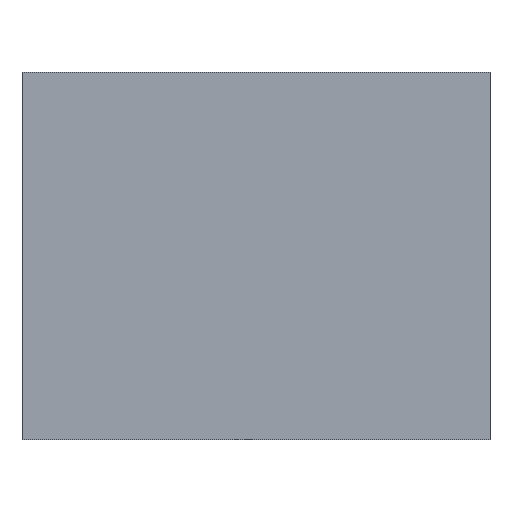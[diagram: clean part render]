
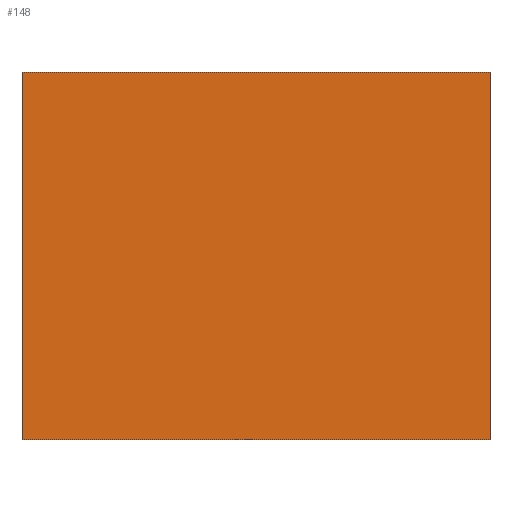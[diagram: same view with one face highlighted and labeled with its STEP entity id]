
A CAD part, front view. The second image highlights one B-rep face of the part: STEP entity #148.
In plain terms, the highlighted planar face has unit normal (0, -1, 0).
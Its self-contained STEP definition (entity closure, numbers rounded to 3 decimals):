
#17=DIRECTION('',(0.,0.,-1.));
#18=VECTOR('',#17,1.1);
#19=CARTESIAN_POINT('',(-0.7,-1.45,1.1));
#20=LINE('',#19,#18);
#32=DIRECTION('',(-1.,0.,0.));
#33=VECTOR('',#32,1.4);
#34=CARTESIAN_POINT('',(0.7,-1.45,0.));
#35=LINE('',#34,#33);
#53=DIRECTION('',(0.,0.,-1.));
#54=VECTOR('',#53,1.1);
#55=CARTESIAN_POINT('',(0.7,-1.45,1.1));
#56=LINE('',#55,#54);
#74=DIRECTION('',(1.,0.,0.));
#75=VECTOR('',#74,1.4);
#76=CARTESIAN_POINT('',(-0.7,-1.45,1.1));
#77=LINE('',#76,#75);
#102=CARTESIAN_POINT('',(-0.7,-1.45,1.1));
#103=CARTESIAN_POINT('',(-0.7,-1.45,0.));
#104=VERTEX_POINT('',#102);
#105=VERTEX_POINT('',#103);
#110=CARTESIAN_POINT('',(0.7,-1.45,1.1));
#111=CARTESIAN_POINT('',(0.7,-1.45,0.));
#112=VERTEX_POINT('',#110);
#113=VERTEX_POINT('',#111);
#134=CARTESIAN_POINT('',(-0.7,-1.45,0.));
#135=DIRECTION('',(0.,1.,0.));
#136=DIRECTION('',(0.,0.,1.));
#137=AXIS2_PLACEMENT_3D('',#134,#135,#136);
#138=PLANE('',#137);
#140=ORIENTED_EDGE('',*,*,#139,.T.);
#141=ORIENTED_EDGE('',*,*,#123,.F.);
#143=ORIENTED_EDGE('',*,*,#142,.T.);
#145=ORIENTED_EDGE('',*,*,#144,.T.);
#146=EDGE_LOOP('',(#140,#141,#143,#145));
#147=FACE_OUTER_BOUND('',#146,.F.);
#123=EDGE_CURVE('',#104,#105,#20,.T.);
#139=EDGE_CURVE('',#113,#105,#35,.T.);
#142=EDGE_CURVE('',#104,#112,#77,.T.);
#144=EDGE_CURVE('',#112,#113,#56,.T.);
#148=ADVANCED_FACE('',(#147),#138,.F.);
